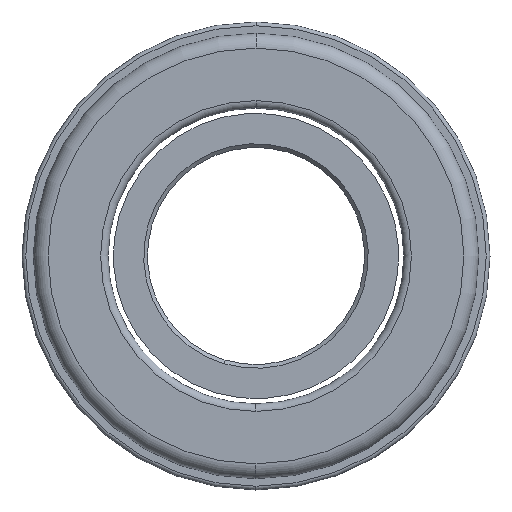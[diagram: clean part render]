
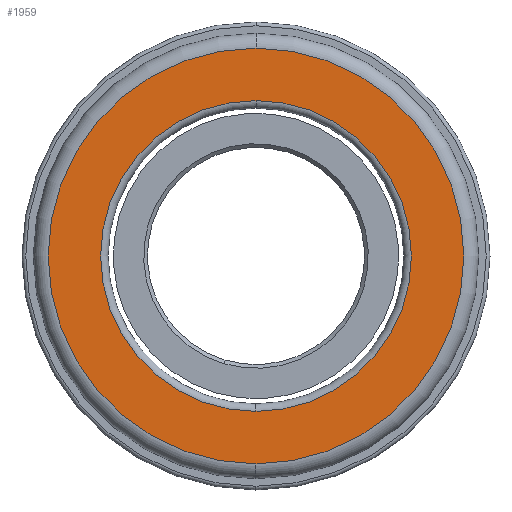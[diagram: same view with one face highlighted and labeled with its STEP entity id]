
A CAD part, left-side view. The second image highlights one B-rep face of the part: STEP entity #1959.
In plain terms, the highlighted planar face has unit normal (-1, 0, 0).
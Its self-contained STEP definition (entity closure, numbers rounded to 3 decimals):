
#59 = ORIENTED_EDGE ( 'NONE', *, *, #8957, .F. ) ;
#342 = DIRECTION ( 'NONE',  ( 0., 0., -1. ) ) ;
#1249 = VERTEX_POINT ( 'NONE', #3251 ) ;
#1888 = CIRCLE ( 'NONE', #9328, 11.1 ) ;
#1959 = ADVANCED_FACE ( 'NONE', ( #21689, #2857 ), #23773, .F. ) ;
#2315 = AXIS2_PLACEMENT_3D ( 'NONE', #2505, #10287, #10201 ) ;
#2505 = CARTESIAN_POINT ( 'NONE',  ( 0., 0., 0. ) ) ;
#2742 = CARTESIAN_POINT ( 'NONE',  ( 0., 0., 0. ) ) ;
#2857 = FACE_OUTER_BOUND ( 'NONE', #14351, .T. ) ;
#2902 = AXIS2_PLACEMENT_3D ( 'NONE', #6733, #2918, #12005 ) ;
#2918 = DIRECTION ( 'NONE',  ( -1., 0., 0. ) ) ;
#3048 = DIRECTION ( 'NONE',  ( 0., 0., 1. ) ) ;
#3251 = CARTESIAN_POINT ( 'NONE',  ( 0., 0., -11.1 ) ) ;
#3878 = VERTEX_POINT ( 'NONE', #10301 ) ;
#4764 = DIRECTION ( 'NONE',  ( -1., 0., 0. ) ) ;
#5751 = EDGE_LOOP ( 'NONE', ( #16033, #59 ) ) ;
#6480 = DIRECTION ( 'NONE',  ( -1., 0., 0. ) ) ;
#6513 = AXIS2_PLACEMENT_3D ( 'NONE', #23530, #4764, #3048 ) ;
#6621 = ORIENTED_EDGE ( 'NONE', *, *, #17948, .T. ) ;
#6733 = CARTESIAN_POINT ( 'NONE',  ( 0., 0., 0. ) ) ;
#7660 = CIRCLE ( 'NONE', #2315, 11.1 ) ;
#8957 = EDGE_CURVE ( 'NONE', #19884, #18405, #8958, .T. ) ;
#8958 = CIRCLE ( 'NONE', #2902, 8.3 ) ;
#9328 = AXIS2_PLACEMENT_3D ( 'NONE', #2742, #6480, #12138 ) ;
#10059 = DIRECTION ( 'NONE',  ( 1., 0., 0. ) ) ;
#10201 = DIRECTION ( 'NONE',  ( 0., 0., 1. ) ) ;
#10287 = DIRECTION ( 'NONE',  ( -1., 0., 0. ) ) ;
#10301 = CARTESIAN_POINT ( 'NONE',  ( 0., 0., 11.1 ) ) ;
#11283 = CARTESIAN_POINT ( 'NONE',  ( 0., 11.1, 0. ) ) ;
#12005 = DIRECTION ( 'NONE',  ( 0., 0., 1. ) ) ;
#12138 = DIRECTION ( 'NONE',  ( 0., 0., 1. ) ) ;
#14351 = EDGE_LOOP ( 'NONE', ( #16772, #6621 ) ) ;
#15709 = AXIS2_PLACEMENT_3D ( 'NONE', #11283, #10059, #342 ) ;
#16033 = ORIENTED_EDGE ( 'NONE', *, *, #22587, .F. ) ;
#16772 = ORIENTED_EDGE ( 'NONE', *, *, #23078, .T. ) ;
#17538 = CIRCLE ( 'NONE', #6513, 8.3 ) ;
#17948 = EDGE_CURVE ( 'NONE', #1249, #3878, #7660, .T. ) ;
#18108 = CARTESIAN_POINT ( 'NONE',  ( 0., 0., -8.3 ) ) ;
#18405 = VERTEX_POINT ( 'NONE', #20850 ) ;
#19884 = VERTEX_POINT ( 'NONE', #18108 ) ;
#20850 = CARTESIAN_POINT ( 'NONE',  ( 0., 0., 8.3 ) ) ;
#21689 = FACE_BOUND ( 'NONE', #5751, .T. ) ;
#22587 = EDGE_CURVE ( 'NONE', #18405, #19884, #17538, .T. ) ;
#23078 = EDGE_CURVE ( 'NONE', #3878, #1249, #1888, .T. ) ;
#23530 = CARTESIAN_POINT ( 'NONE',  ( 0., 0., 0. ) ) ;
#23773 = PLANE ( 'NONE',  #15709 ) ;
